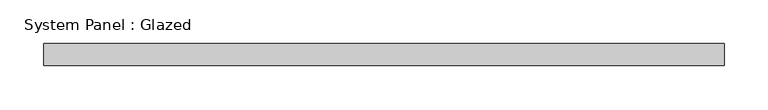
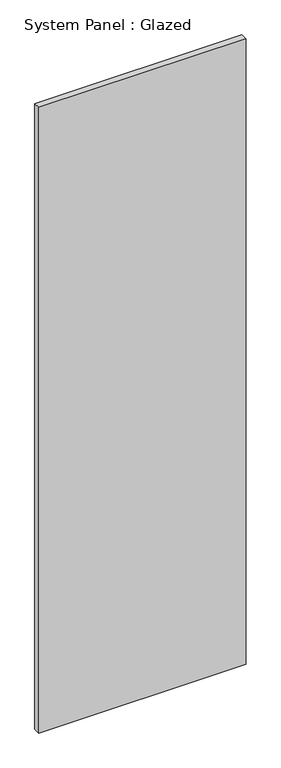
"""IFC4 building model written with IfcOpenShell, lengths in millimetres: plate geometry, System Panel : Glazed."""

from ifc_helpers import new_model, si_unit, origin, origin_with_axes, place, context, project, spatial, polyline, outline, extrude, source, transform, mapped, element, save


def system_panel_glazed_24c908d7(model_context):
    return source(origin(), model_context, "Body", "SweptSolid", [
        extrude(outline(polyline([(387.5, -49.5), (-387.5, -49.5), (-387.5, -24.5), (387.5, -24.5), (387.5, -49.5)])), origin_with_axes(), (0.0, 0.0, 1.0), 2470.0),
    ])


if __name__ == "__main__":
    model = new_model("IFC4")
    model_context = context("Model", 3, world=origin())
    ifc_project = project(units=[si_unit("LENGTHUNIT", "METRE", prefix="MILLI")], contexts=[model_context])
    site = spatial("IfcSite", under=ifc_project)
    building = spatial("IfcBuilding", under=site)
    placement = place(None, origin())
    system_panel_glazed_shape = system_panel_glazed_24c908d7(model_context)
    element("IfcPlate", 1, ObjectType="System Panel : Glazed", at=placement, inside=building, context=model_context, shape_type="MappedRepresentation", body=[
        mapped(system_panel_glazed_shape, transform((0.0, 0.0, 0.0), x_axis=(1.0, 0.0, 0.0), y_axis=(0.0, 1.0, 0.0), z_axis=(0.0, 0.0, 1.0))),
    ])
    save(model, "model.ifc")
